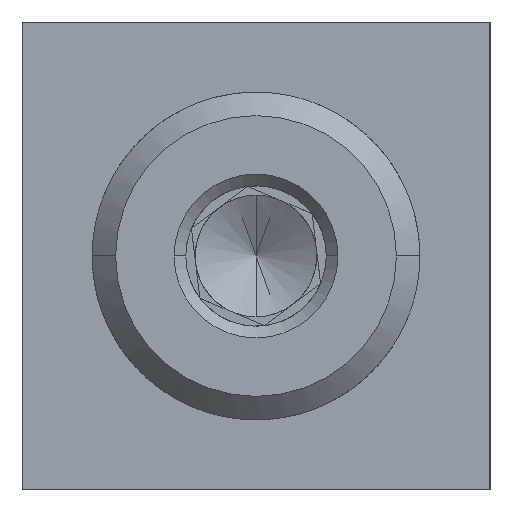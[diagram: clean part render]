
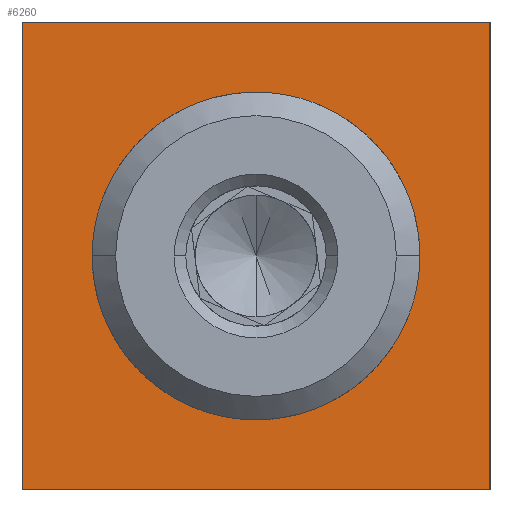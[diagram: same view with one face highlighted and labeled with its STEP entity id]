
A CAD part, left-side view. The second image highlights one B-rep face of the part: STEP entity #6260.
In plain terms, the highlighted planar face has unit normal (-1, 0, 0).
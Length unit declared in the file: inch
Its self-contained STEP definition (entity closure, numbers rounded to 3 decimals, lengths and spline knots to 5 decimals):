
#4243 = VERTEX_POINT ( 'NONE', #11569 ) ;
#4258 = EDGE_CURVE ( 'NONE', #4243, #4297, #11686, .T. ) ;
#4297 = VERTEX_POINT ( 'NONE', #11761 ) ;
#6232 = VERTEX_POINT ( 'NONE', #15354 ) ;
#6234 = EDGE_CURVE ( 'NONE', #6235, #6232, #15353, .T. ) ;
#6235 = VERTEX_POINT ( 'NONE', #15349 ) ;
#6254 = EDGE_CURVE ( 'NONE', #4297, #4243, #15388, .T. ) ;
#6260 = ADVANCED_FACE ( 'NONE', ( #15384, #15383 ), #15382, .T. ) ;
#6261 = EDGE_LOOP ( 'NONE', ( #6262, #6316 ) ) ;
#6262 = ORIENTED_EDGE ( 'NONE', *, *, #6254, .T. ) ;
#6316 = ORIENTED_EDGE ( 'NONE', *, *, #4258, .T. ) ;
#6317 = EDGE_LOOP ( 'NONE', ( #6319, #6322, #6324, #6325 ) ) ;
#6319 = ORIENTED_EDGE ( 'NONE', *, *, #6320, .T. ) ;
#6320 = EDGE_CURVE ( 'NONE', #6232, #6321, #15502, .T. ) ;
#6321 = VERTEX_POINT ( 'NONE', #15498 ) ;
#6322 = ORIENTED_EDGE ( 'NONE', *, *, #6323, .F. ) ;
#6323 = EDGE_CURVE ( 'NONE', #6334, #6321, #15497, .T. ) ;
#6324 = ORIENTED_EDGE ( 'NONE', *, *, #6333, .T. ) ;
#6325 = ORIENTED_EDGE ( 'NONE', *, *, #6234, .T. ) ;
#6333 = EDGE_CURVE ( 'NONE', #6334, #6235, #15485, .T. ) ;
#6334 = VERTEX_POINT ( 'NONE', #15481 ) ;
#11569 = CARTESIAN_POINT ( 'NONE',  ( 0., 10., 7. ) ) ;
#11682 = DIRECTION ( 'NONE',  ( 0., 0., 1. ) ) ;
#11683 = DIRECTION ( 'NONE',  ( 1., 0., 0. ) ) ;
#11684 = CARTESIAN_POINT ( 'NONE',  ( 0., 10., 10. ) ) ;
#11685 = AXIS2_PLACEMENT_3D ( 'NONE', #11684, #11683, #11682 ) ;
#11686 = CIRCLE ( 'NONE', #11685, 3. ) ;
#11761 = CARTESIAN_POINT ( 'NONE',  ( 0., 10., 13. ) ) ;
#15349 = CARTESIAN_POINT ( 'NONE',  ( 0., 20., 20. ) ) ;
#15350 = DIRECTION ( 'NONE',  ( 0., 0., -1. ) ) ;
#15351 = VECTOR ( 'NONE', #15350, 39.37008 ) ;
#15352 = CARTESIAN_POINT ( 'NONE',  ( 0., 20., 0. ) ) ;
#15353 = LINE ( 'NONE', #15352, #15351 ) ;
#15354 = CARTESIAN_POINT ( 'NONE',  ( 0., 20., 0. ) ) ;
#15378 = DIRECTION ( 'NONE',  ( 0., -1., 0. ) ) ;
#15379 = DIRECTION ( 'NONE',  ( -1., 0., 0. ) ) ;
#15380 = CARTESIAN_POINT ( 'NONE',  ( 0., 0., 0. ) ) ;
#15381 = AXIS2_PLACEMENT_3D ( 'NONE', #15380, #15379, #15378 ) ;
#15382 = PLANE ( 'NONE',  #15381 ) ;
#15383 = FACE_OUTER_BOUND ( 'NONE', #6317, .T. ) ;
#15384 = FACE_BOUND ( 'NONE', #6261, .T. ) ;
#15385 = DIRECTION ( 'NONE',  ( 0., 0., 1. ) ) ;
#15386 = DIRECTION ( 'NONE',  ( 1., 0., 0. ) ) ;
#15387 = AXIS2_PLACEMENT_3D ( 'NONE', #15392, #15386, #15385 ) ;
#15388 = CIRCLE ( 'NONE', #15387, 3. ) ;
#15392 = CARTESIAN_POINT ( 'NONE',  ( 0., 10., 10. ) ) ;
#15481 = CARTESIAN_POINT ( 'NONE',  ( 0., 0., 20. ) ) ;
#15482 = DIRECTION ( 'NONE',  ( 0., 1., 0. ) ) ;
#15483 = VECTOR ( 'NONE', #15482, 39.37008 ) ;
#15484 = CARTESIAN_POINT ( 'NONE',  ( 0., 0., 20. ) ) ;
#15485 = LINE ( 'NONE', #15484, #15483 ) ;
#15494 = DIRECTION ( 'NONE',  ( 0., 0., -1. ) ) ;
#15495 = VECTOR ( 'NONE', #15494, 39.37008 ) ;
#15496 = CARTESIAN_POINT ( 'NONE',  ( 0., 0., 0. ) ) ;
#15497 = LINE ( 'NONE', #15496, #15495 ) ;
#15498 = CARTESIAN_POINT ( 'NONE',  ( 0., 0., 0. ) ) ;
#15499 = DIRECTION ( 'NONE',  ( 0., -1., 0. ) ) ;
#15500 = VECTOR ( 'NONE', #15499, 39.37008 ) ;
#15501 = CARTESIAN_POINT ( 'NONE',  ( 0., 10., 0. ) ) ;
#15502 = LINE ( 'NONE', #15501, #15500 ) ;
